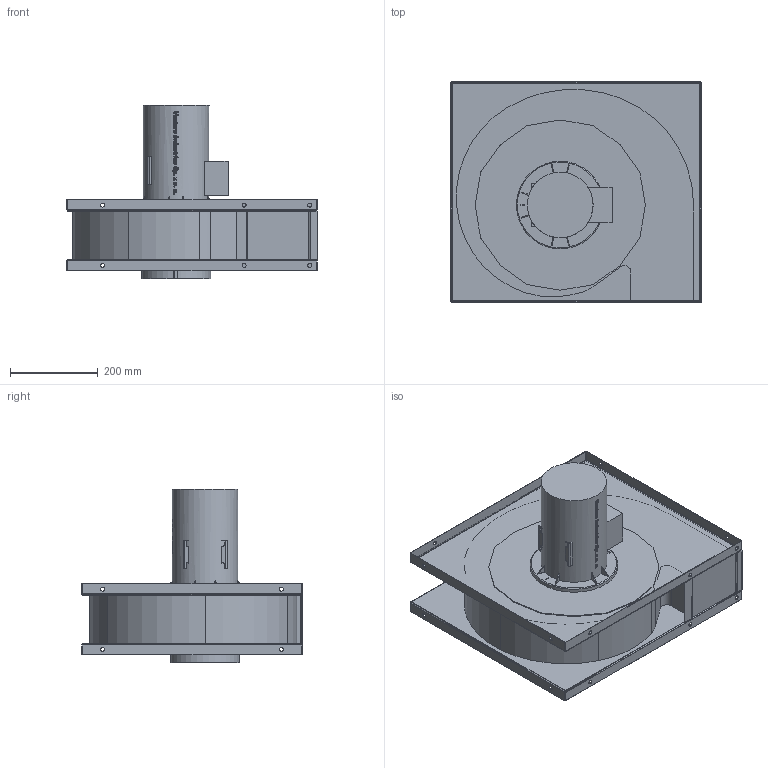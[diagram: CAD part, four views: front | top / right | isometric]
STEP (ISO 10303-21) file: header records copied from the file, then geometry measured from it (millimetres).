
FILE_DESCRIPTION(/* description */ (''),/* implementation_level */ '2;1');
FILE_NAME(/* name */ 'C:\Users\lukasz\Desktop\Nowy folder\Nowy folder\GMT-250-150.stp',/* time_stamp */ '2015-09-02T11:49:12+02:00',/* author */ ('lukasz'),/* organization */ (''),/* preprocessor_version */ 'ST-DEVELOPER v15.6',/* originating_system */ 'Autodesk Inventor 2015',/* authorisation */ '');
FILE_SCHEMA (('AUTOMOTIVE_DESIGN { 1 0 10303 214 3 1 1 }'));
Length unit declared in the file: centimetre
Products named in the file (1): GMT-250-150
Bounding box: 571 x 503 x 395.5 mm (x, y, z)
Volume: 29342283.3 mm3; surface area: 1321949.7 mm2
Topology: 1 solids, 3 shells, 750 faces, 2153 edges, 1434 vertices
Faces by surface type: plane 354, bspline 256, cylinder 137, torus 3
Full cylindrical faces by diameter (mm): 9.2 x18, 149.9 x1, 200 x1
Entity records: 28617 total; most frequent: CARTESIAN_POINT 10625, ORIENTED_EDGE 4142, DIRECTION 2810, EDGE_CURVE 2071, VERTEX_POINT 1402, LINE 1134, VECTOR 1134, EDGE_LOOP 851
